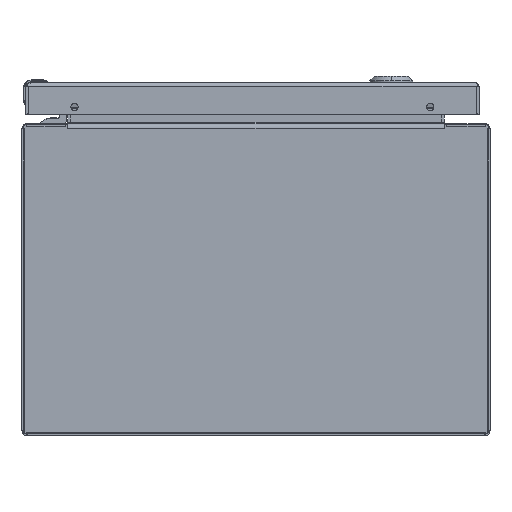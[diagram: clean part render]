
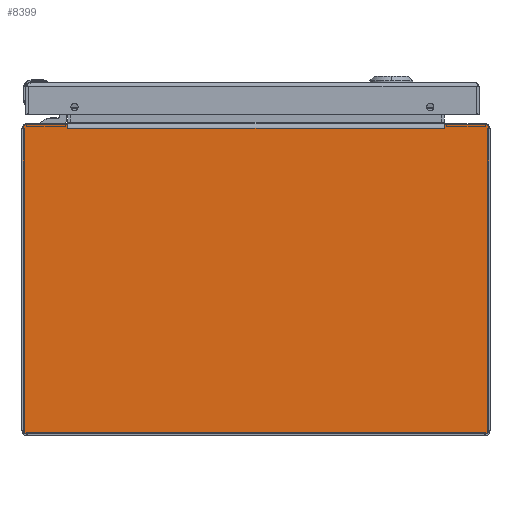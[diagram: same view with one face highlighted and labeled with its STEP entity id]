
A CAD part, front view. The second image highlights one B-rep face of the part: STEP entity #8399.
In plain terms, the highlighted planar face has unit normal (0, -1, 0).
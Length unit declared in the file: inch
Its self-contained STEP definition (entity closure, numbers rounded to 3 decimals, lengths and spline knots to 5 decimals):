
#7502=CARTESIAN_POINT('',(5.887,0.,3.897));
#7503=DIRECTION('',(0.,-1.,0.));
#7504=DIRECTION('',(1.,0.,0.));
#7505=AXIS2_PLACEMENT_3D('',#7502,#7503,#7504);
#7510=DIRECTION('',(0.,0.,-1.));
#7511=VECTOR('',#7510,7.764);
#7512=CARTESIAN_POINT('',(5.967,0.,3.897));
#7513=LINE('',#7512,#7511);
#7517=CARTESIAN_POINT('',(5.887,0.,-3.867));
#7518=DIRECTION('',(0.,-1.,0.));
#7519=DIRECTION('',(0.,0.,-1.));
#7520=AXIS2_PLACEMENT_3D('',#7517,#7518,#7519);
#7525=CARTESIAN_POINT('',(-5.887,0.,-3.867));
#7526=DIRECTION('',(0.,-1.,0.));
#7527=DIRECTION('',(-1.,0.,0.));
#7528=AXIS2_PLACEMENT_3D('',#7525,#7526,#7527);
#7533=DIRECTION('',(0.,0.,1.));
#7534=VECTOR('',#7533,7.764);
#7535=CARTESIAN_POINT('',(-5.967,0.,-3.867));
#7536=LINE('',#7535,#7534);
#7540=CARTESIAN_POINT('',(-5.887,0.,3.897));
#7541=DIRECTION('',(0.,-1.,0.));
#7542=DIRECTION('',(0.,0.,1.));
#7543=AXIS2_PLACEMENT_3D('',#7540,#7541,#7542);
#7555=DIRECTION('',(-1.,0.,0.));
#7556=VECTOR('',#7555,1.062);
#7557=CARTESIAN_POINT('',(5.887,0.,3.977));
#7558=LINE('',#7557,#7556);
#7583=DIRECTION('',(0.,0.,-1.));
#7584=VECTOR('',#7583,0.094);
#7585=CARTESIAN_POINT('',(4.825,0.,3.977));
#7586=LINE('',#7585,#7584);
#7726=DIRECTION('',(1.,0.,0.));
#7727=VECTOR('',#7726,9.65);
#7728=CARTESIAN_POINT('',(-4.825,0.,3.883));
#7729=LINE('',#7728,#7727);
#7770=DIRECTION('',(0.,0.,1.));
#7771=VECTOR('',#7770,0.094);
#7772=CARTESIAN_POINT('',(-4.825,0.,3.883));
#7773=LINE('',#7772,#7771);
#7805=DIRECTION('',(-1.,0.,0.));
#7806=VECTOR('',#7805,1.062);
#7807=CARTESIAN_POINT('',(-4.825,0.,3.977));
#7808=LINE('',#7807,#7806);
#7847=DIRECTION('',(1.,0.,0.));
#7848=VECTOR('',#7847,11.774);
#7849=CARTESIAN_POINT('',(-5.887,0.,-3.947));
#7850=LINE('',#7849,#7848);
#8252=CARTESIAN_POINT('',(-4.825,0.,3.883));
#8253=CARTESIAN_POINT('',(4.825,0.,3.883));
#8254=VERTEX_POINT('',#8252);
#8255=VERTEX_POINT('',#8253);
#8328=CARTESIAN_POINT('',(4.825,0.,3.977));
#8330=VERTEX_POINT('',#8328);
#8332=CARTESIAN_POINT('',(-4.825,0.,3.977));
#8334=VERTEX_POINT('',#8332);
#8336=CARTESIAN_POINT('',(5.967,0.,3.897));
#8337=CARTESIAN_POINT('',(5.887,0.,3.977));
#8338=VERTEX_POINT('',#8336);
#8339=VERTEX_POINT('',#8337);
#8344=CARTESIAN_POINT('',(5.887,0.,-3.947));
#8345=CARTESIAN_POINT('',(5.967,0.,-3.867));
#8346=VERTEX_POINT('',#8344);
#8347=VERTEX_POINT('',#8345);
#8352=CARTESIAN_POINT('',(-5.967,0.,-3.867));
#8353=CARTESIAN_POINT('',(-5.887,0.,-3.947));
#8354=VERTEX_POINT('',#8352);
#8355=VERTEX_POINT('',#8353);
#8360=CARTESIAN_POINT('',(-5.887,0.,3.977));
#8361=CARTESIAN_POINT('',(-5.967,0.,3.897));
#8362=VERTEX_POINT('',#8360);
#8363=VERTEX_POINT('',#8361);
#8368=CARTESIAN_POINT('',(0.,0.,0.));
#8369=DIRECTION('',(0.,-1.,0.));
#8370=DIRECTION('',(-1.,0.,0.));
#8371=AXIS2_PLACEMENT_3D('',#8368,#8369,#8370);
#8372=PLANE('',#8371);
#8374=ORIENTED_EDGE('',*,*,#8373,.F.);
#8376=ORIENTED_EDGE('',*,*,#8375,.T.);
#8378=ORIENTED_EDGE('',*,*,#8377,.F.);
#8380=ORIENTED_EDGE('',*,*,#8379,.F.);
#8382=ORIENTED_EDGE('',*,*,#8381,.F.);
#8384=ORIENTED_EDGE('',*,*,#8383,.T.);
#8386=ORIENTED_EDGE('',*,*,#8385,.F.);
#8388=ORIENTED_EDGE('',*,*,#8387,.F.);
#8390=ORIENTED_EDGE('',*,*,#8389,.F.);
#8392=ORIENTED_EDGE('',*,*,#8391,.T.);
#8394=ORIENTED_EDGE('',*,*,#8393,.F.);
#8396=ORIENTED_EDGE('',*,*,#8395,.F.);
#8397=EDGE_LOOP('',(#8374,#8376,#8378,#8380,#8382,#8384,#8386,#8388,#8390,#8392,
#8394,#8396));
#8398=FACE_OUTER_BOUND('',#8397,.F.);
#7506=CIRCLE('',#7505,0.08);
#7521=CIRCLE('',#7520,0.08);
#7529=CIRCLE('',#7528,0.08);
#7544=CIRCLE('',#7543,0.08);
#8373=EDGE_CURVE('',#8338,#8339,#7506,.T.);
#8375=EDGE_CURVE('',#8338,#8347,#7513,.T.);
#8377=EDGE_CURVE('',#8346,#8347,#7521,.T.);
#8379=EDGE_CURVE('',#8355,#8346,#7850,.T.);
#8381=EDGE_CURVE('',#8354,#8355,#7529,.T.);
#8383=EDGE_CURVE('',#8354,#8363,#7536,.T.);
#8385=EDGE_CURVE('',#8362,#8363,#7544,.T.);
#8387=EDGE_CURVE('',#8334,#8362,#7808,.T.);
#8389=EDGE_CURVE('',#8254,#8334,#7773,.T.);
#8391=EDGE_CURVE('',#8254,#8255,#7729,.T.);
#8393=EDGE_CURVE('',#8330,#8255,#7586,.T.);
#8395=EDGE_CURVE('',#8339,#8330,#7558,.T.);
#8399=ADVANCED_FACE('',(#8398),#8372,.T.);
